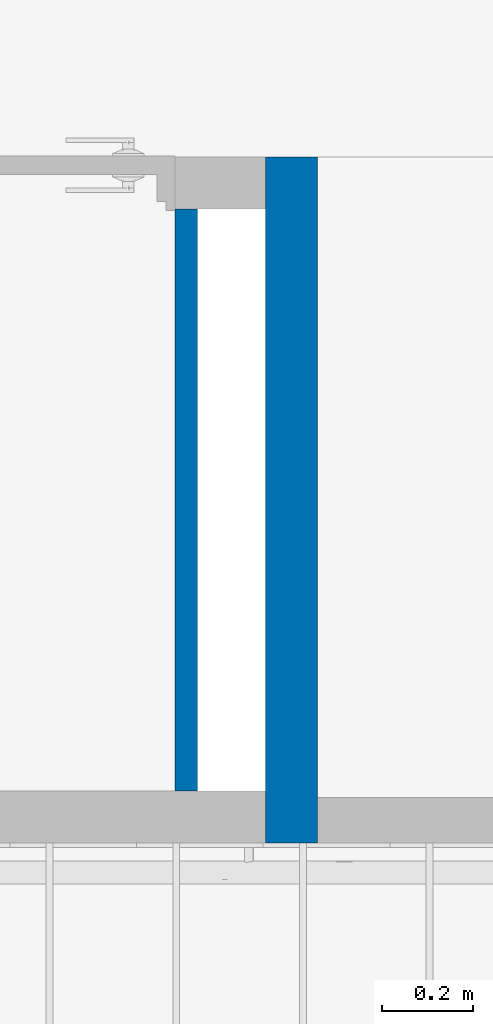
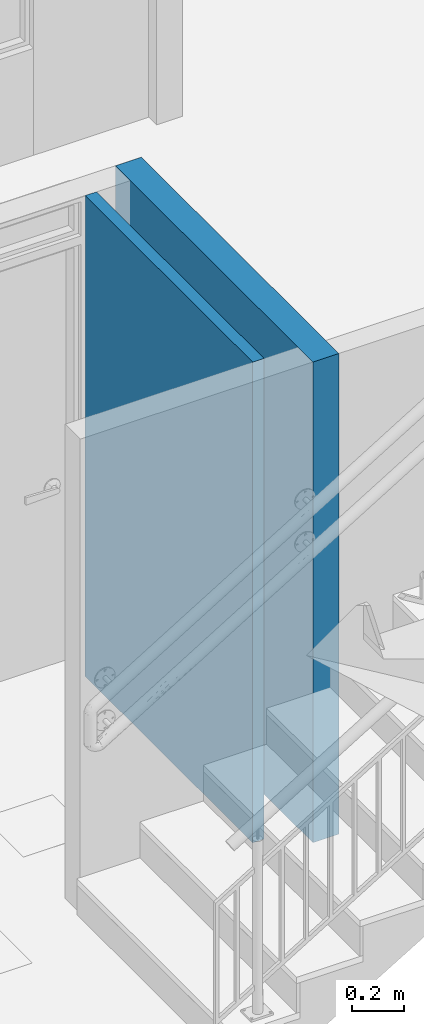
# One storey, part 21 of 48: 2 walls.
"""IFC4 building model written with IfcOpenShell, lengths in metres."""

import ifcopenshell
import ifcopenshell.guid

model = None  # the IFC model being written
_history = None  # IfcOwnerHistory: only IFC2X3 demands one
_inside = {}  # id of a spatial element -> (the spatial element, [elements in it])
_under = {}  # id of a project, library or spatial element -> (it, [spatial elements below it])
_declared = {}  # id of a project -> (the project, [libraries it declares])
_typed = {}  # id of a type object -> (the type object, [elements of that type])
_made_of = {}  # id of a material, layer set ... -> (it, [elements and type objects made of it])


def new_model(schema):
    """Start an empty IFC model of exactly this schema.

    Asked for "IFC4X3", IfcOpenShell would pick the latest addendum, in which some entities
    have other attributes; the version numbers below select the first issue.
    IFC2X3 requires an IfcOwnerHistory on every rooted entity: one is made here for all.
    """
    global model, _history
    if schema == "IFC4X3":
        model = ifcopenshell.file(schema_version=(4, 3, 0, 0))
    else:
        model = ifcopenshell.file(schema=schema)
    _inside.clear()
    _under.clear()
    _declared.clear()
    _typed.clear()
    _made_of.clear()
    _history = None
    if model.schema == "IFC2X3":
        org = make("IfcOrganization", Name="unknown")
        user = make(
            "IfcPersonAndOrganization",
            ThePerson=make("IfcPerson", FamilyName="unknown"),
            TheOrganization=org,
        )
        app = make(
            "IfcApplication",
            ApplicationDeveloper=org,
            Version="unknown",
            ApplicationFullName="unknown",
            ApplicationIdentifier="unknown",
        )
        _history = make(
            "IfcOwnerHistory",
            OwningUser=user,
            OwningApplication=app,
            ChangeAction="ADDED",
            CreationDate=0,
        )
    return model


def make(cls, **values):
    """One entity of the class cls with the attributes given. An attribute that is None is left unset."""
    return model.create_entity(
        cls, **{name: value for name, value in values.items() if value is not None}
    )


def entity(cls, *values):
    """Any entity or typed value of the class cls, its attributes in the order of the schema. None: left unset."""
    e = model.create_entity(cls)
    for i, value in enumerate(values):
        if value is not None:
            e[i] = value
    return e


def rooted(cls, **values):
    """An entity with a GlobalId (a new one), such as an element, a storey or a relation."""
    return make(cls, GlobalId=ifcopenshell.guid.new(), OwnerHistory=_history, **values)


def si_unit(unit_type, name, prefix=None):
    """IfcSIUnit, for example si_unit("LENGTHUNIT", "METRE", prefix="MILLI")."""
    return make("IfcSIUnit", UnitType=unit_type, Prefix=prefix, Name=name)


def converted_unit(unit_type, name, factor, base, dimensions=None, offset=None):
    """IfcConversionBasedUnit, such as the inch: factor (a typed value) times the base unit."""
    return make(
        "IfcConversionBasedUnit"
        if offset is None
        else "IfcConversionBasedUnitWithOffset",
        ConversionOffset=offset,
        Dimensions=None
        if dimensions is None
        else entity("IfcDimensionalExponents", *dimensions),
        UnitType=unit_type,
        Name=name,
        ConversionFactor=make(
            "IfcMeasureWithUnit", ValueComponent=factor, UnitComponent=base
        ),
    )


def derived_unit(unit_type, elements):
    """IfcDerivedUnit: a product of units, each with its exponent."""
    return make(
        "IfcDerivedUnit",
        Elements=[
            make("IfcDerivedUnitElement", Unit=unit, Exponent=power)
            for unit, power in elements
        ],
        UnitType=unit_type,
    )


def assignment(units):
    """IfcUnitAssignment: the units of a project."""
    return None if units is None else make("IfcUnitAssignment", Units=units)


def point(xyz):
    """IfcCartesianPoint."""
    return None if xyz is None else make("IfcCartesianPoint", Coordinates=xyz)


def direction(xyz):
    """IfcDirection."""
    return None if xyz is None else make("IfcDirection", DirectionRatios=xyz)


def frame(location, z_axis=None, x_axis=None):
    """IfcAxis2Placement3D, a coordinate frame: its origin and axes. An axis left out is left unset."""
    return make(
        "IfcAxis2Placement3D",
        Location=point(location),
        Axis=direction(z_axis),
        RefDirection=direction(x_axis),
    )


def origin():
    """The frame at (0, 0, 0) with its axes left unset."""
    return frame((0.0, 0.0, 0.0))


def place(relative_to, where):
    """IfcLocalPlacement: puts the frame where relative to a parent placement (None: the world)."""
    return make(
        "IfcLocalPlacement", PlacementRelTo=relative_to, RelativePlacement=where
    )


def context(
    kind, dimensions, precision=None, world=None, true_north=None, identifier=None
):
    """IfcGeometricRepresentationContext, for example the 3D "Model" context."""
    return make(
        "IfcGeometricRepresentationContext",
        ContextIdentifier=identifier,
        ContextType=kind,
        CoordinateSpaceDimension=dimensions,
        Precision=precision,
        WorldCoordinateSystem=world,
        TrueNorth=true_north,
    )


def subcontext(parent, identifier, kind, view, scale=None):
    """IfcGeometricRepresentationSubContext, for example "Body" below "Model"."""
    return make(
        "IfcGeometricRepresentationSubContext",
        ContextIdentifier=identifier,
        ContextType=kind,
        ParentContext=parent,
        TargetScale=scale,
        TargetView=view,
    )


def project(units=None, contexts=None):
    """IfcProject with its units and contexts."""
    return rooted(
        "IfcProject",
        Name="project",
        RepresentationContexts=contexts,
        UnitsInContext=assignment(units),
    )


def spatial(cls, under=None, at=None, **own):
    """A site, building, storey or space (cls), placed at a placement, below another one or the project."""
    s = rooted(cls, ObjectPlacement=at, **own)
    if under is not None:
        _under.setdefault(under.id(), (under, []))[1].append(s)
    return s


def point_list(points):
    """IfcCartesianPointList2D or 3D."""
    cls = (
        "IfcCartesianPointList2D" if len(points[0]) == 2 else "IfcCartesianPointList3D"
    )
    return make(cls, CoordList=points)


def indexed_curve(points, segments=None, self_intersect=None):
    """IfcIndexedPolyCurve: lines and arcs through numbered points (the first is 1)."""
    return make(
        "IfcIndexedPolyCurve",
        Points=point_list(points),
        Segments=segments,
        SelfIntersect=self_intersect,
    )


def outline(outer, holes=None, kind="AREA"):
    """IfcArbitraryClosedProfileDef: a profile drawn as a closed curve; with holes, ...WithVoids."""
    if holes is None:
        return make("IfcArbitraryClosedProfileDef", ProfileType=kind, OuterCurve=outer)
    return make(
        "IfcArbitraryProfileDefWithVoids",
        ProfileType=kind,
        OuterCurve=outer,
        InnerCurves=holes,
    )


def extrude(swept, where, along, depth):
    """IfcExtrudedAreaSolid: the profile swept, set in the frame where, extruded along a direction by depth."""
    return make(
        "IfcExtrudedAreaSolid",
        SweptArea=swept,
        Position=where,
        ExtrudedDirection=direction(along),
        Depth=depth,
    )


def shape(context_of_items, identifier, shape_type, items):
    """IfcShapeRepresentation: the items that make up one representation, for example the "Body"."""
    return make(
        "IfcShapeRepresentation",
        ContextOfItems=context_of_items,
        RepresentationIdentifier=identifier,
        RepresentationType=shape_type,
        Items=items,
    )


def material(Name=None, Category=None):
    """IfcMaterial."""
    return make("IfcMaterial", Name=Name, Category=Category)


def made_of(thing, what):
    """Note that an element or type object is made of a material, layer set ...; save() writes the relation."""
    if what is not None:
        _made_of.setdefault(what.id(), (what, []))[1].append(thing)
    return thing


def type_object(cls, material=None, **own):
    """A type object (cls), such as IfcWallType, which elements share."""
    return made_of(rooted(cls, **own), material)


def element(
    cls,
    number,
    at=None,
    inside=None,
    cuts=None,
    type_object=None,
    material=None,
    context=None,
    identifier="Body",
    shape_type=None,
    held_by="IfcProductDefinitionShape",
    body=None,
    shapes=None,
    **own,
):
    """One element of the class cls, such as IfcWall. Its Tag is "e" and its number.

    at: its placement. inside: the storey or other place that contains it. cuts: it is an
    opening in that element (IfcRelVoidsElement). A single representation is given by context,
    identifier, shape_type and body (its items); several are given by shapes. held_by: the class
    of the entity that holds the representations. save() writes the other relations.
    """
    e = rooted(cls, Tag="e%d" % number, ObjectPlacement=at, **own)
    if body is not None:
        shapes = [shape(context, identifier, shape_type, body)]
    if shapes is not None:
        e.Representation = make(held_by, Representations=shapes)
    if inside is not None:
        _inside.setdefault(inside.id(), (inside, []))[1].append(e)
    if cuts is not None:
        rooted(
            "IfcRelVoidsElement", RelatingBuildingElement=cuts, RelatedOpeningElement=e
        )
    if type_object is not None:
        _typed.setdefault(type_object.id(), (type_object, []))[1].append(e)
    return made_of(e, material)


def aggregate(whole, parts):
    """IfcRelAggregates: a whole, such as a stair, and the parts it consists of."""
    return rooted("IfcRelAggregates", RelatingObject=whole, RelatedObjects=parts)


def save(model, path):
    """Write the relations noted so far, then the file.

    IfcRelAggregates (storeys below a building ...), IfcRelContainedInSpatialStructure (elements
    in a storey), IfcRelDefinesByType, IfcRelAssociatesMaterial and IfcRelDeclares: one each for
    every whole, place, type object, material and project.
    """
    for whole, parts in _under.values():
        aggregate(whole, parts)
    for where, things in _inside.values():
        rooted(
            "IfcRelContainedInSpatialStructure",
            RelatedElements=things,
            RelatingStructure=where,
        )
    for kind, things in _typed.values():
        rooted("IfcRelDefinesByType", RelatedObjects=things, RelatingType=kind)
    for what, things in _made_of.values():
        rooted("IfcRelAssociatesMaterial", RelatedObjects=things, RelatingMaterial=what)
    for by, libraries in _declared.values():
        rooted("IfcRelDeclares", RelatingContext=by, RelatedDefinitions=libraries)
    model.write(path)


model = new_model("IFC4")

# Units and contexts
model_context = context("Model", 3, precision=1e-05, world=origin(), true_north=direction((6.123031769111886e-17, 1.0)))
body_context = subcontext(model_context, "Body", "Model", "MODEL_VIEW")
ifc_project = project(units=[si_unit("LENGTHUNIT", "METRE"), si_unit("AREAUNIT", "SQUARE_METRE"), si_unit("VOLUMEUNIT", "CUBIC_METRE"), converted_unit("PLANEANGLEUNIT", "DEGREE", entity("IfcRatioMeasure", 0.017453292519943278), si_unit("PLANEANGLEUNIT", "RADIAN"), dimensions=[0, 0, 0, 0, 0, 0, 0]), si_unit("MASSUNIT", "GRAM", prefix="KILO"), derived_unit("MASSDENSITYUNIT", [(si_unit("MASSUNIT", "GRAM", prefix="KILO"), 1), (si_unit("LENGTHUNIT", "METRE"), -3)]), derived_unit("IONCONCENTRATIONUNIT", [(si_unit("MASSUNIT", "GRAM", prefix="KILO"), 1), (si_unit("LENGTHUNIT", "METRE"), -3)]), derived_unit("MOMENTOFINERTIAUNIT", [(si_unit("LENGTHUNIT", "METRE"), 4)]), si_unit("TIMEUNIT", "SECOND"), si_unit("FREQUENCYUNIT", "HERTZ"), si_unit("THERMODYNAMICTEMPERATUREUNIT", "DEGREE_CELSIUS"), derived_unit("THERMALTRANSMITTANCEUNIT", [(si_unit("MASSUNIT", "GRAM", prefix="KILO"), 1), (si_unit("THERMODYNAMICTEMPERATUREUNIT", "KELVIN"), -1), (si_unit("TIMEUNIT", "SECOND"), -3)]), derived_unit("THERMALCONDUCTANCEUNIT", [(si_unit("MASSUNIT", "GRAM", prefix="KILO"), 1), (si_unit("THERMODYNAMICTEMPERATUREUNIT", "KELVIN"), -1), (si_unit("TIMEUNIT", "SECOND"), -3), (si_unit("LENGTHUNIT", "METRE"), 1)]), derived_unit("VOLUMETRICFLOWRATEUNIT", [(si_unit("LENGTHUNIT", "METRE"), 3), (si_unit("TIMEUNIT", "SECOND"), -1)]), derived_unit("MASSFLOWRATEUNIT", [(si_unit("MASSUNIT", "GRAM", prefix="KILO"), 1), (si_unit("TIMEUNIT", "SECOND"), -1)]), derived_unit("ROTATIONALFREQUENCYUNIT", [(si_unit("TIMEUNIT", "SECOND"), -1)]), si_unit("ELECTRICCURRENTUNIT", "AMPERE"), si_unit("ELECTRICVOLTAGEUNIT", "VOLT"), si_unit("POWERUNIT", "WATT"), si_unit("FORCEUNIT", "NEWTON", prefix="KILO"), si_unit("ILLUMINANCEUNIT", "LUX"), si_unit("LUMINOUSFLUXUNIT", "LUMEN"), si_unit("LUMINOUSINTENSITYUNIT", "CANDELA"), derived_unit("USERDEFINED", [(si_unit("MASSUNIT", "GRAM", prefix="KILO"), -1), (si_unit("LENGTHUNIT", "METRE"), -2), (si_unit("TIMEUNIT", "SECOND"), 3), (si_unit("LUMINOUSFLUXUNIT", "LUMEN"), 1)]), derived_unit("USERDEFINED", [(si_unit("MASSUNIT", "GRAM", prefix="KILO"), 1), (si_unit("TIMEUNIT", "SECOND"), -3), (si_unit("LENGTHUNIT", "METRE"), 3), (si_unit("ELECTRICCURRENTUNIT", "AMPERE"), -2)]), derived_unit("SOUNDPOWERUNIT", [(si_unit("MASSUNIT", "GRAM", prefix="KILO"), 1), (si_unit("TIMEUNIT", "SECOND"), -3), (si_unit("LENGTHUNIT", "METRE"), 2)]), derived_unit("SOUNDPRESSUREUNIT", [(si_unit("MASSUNIT", "GRAM", prefix="KILO"), 1), (si_unit("LENGTHUNIT", "METRE"), -1), (si_unit("TIMEUNIT", "SECOND"), -2)]), derived_unit("LINEARVELOCITYUNIT", [(si_unit("LENGTHUNIT", "METRE"), 1), (si_unit("TIMEUNIT", "SECOND"), -1)]), si_unit("PRESSUREUNIT", "PASCAL"), derived_unit("USERDEFINED", [(si_unit("MASSUNIT", "GRAM", prefix="KILO"), 1), (si_unit("LENGTHUNIT", "METRE"), -2), (si_unit("TIMEUNIT", "SECOND"), -2)]), derived_unit("LINEARFORCEUNIT", [(si_unit("MASSUNIT", "GRAM", prefix="KILO"), 1), (si_unit("TIMEUNIT", "SECOND"), -2)]), derived_unit("PLANARFORCEUNIT", [(si_unit("MASSUNIT", "GRAM", prefix="KILO"), 1), (si_unit("LENGTHUNIT", "METRE"), -1), (si_unit("TIMEUNIT", "SECOND"), -2)]), derived_unit("SPECIFICHEATCAPACITYUNIT", [(si_unit("THERMODYNAMICTEMPERATUREUNIT", "KELVIN"), -1), (si_unit("LENGTHUNIT", "METRE"), 2), (si_unit("TIMEUNIT", "SECOND"), -2)]), derived_unit("HEATINGVALUEUNIT", [(si_unit("LENGTHUNIT", "METRE"), 2), (si_unit("TIMEUNIT", "SECOND"), -2)]), derived_unit("VAPORPERMEABILITYUNIT", [(si_unit("LENGTHUNIT", "METRE"), -1), (si_unit("TIMEUNIT", "SECOND"), 1)]), derived_unit("DYNAMICVISCOSITYUNIT", [(si_unit("MASSUNIT", "GRAM", prefix="KILO"), 1), (si_unit("TIMEUNIT", "SECOND"), -1), (si_unit("LENGTHUNIT", "METRE"), -1)]), derived_unit("THERMALEXPANSIONCOEFFICIENTUNIT", [(si_unit("THERMODYNAMICTEMPERATUREUNIT", "KELVIN"), -1)]), derived_unit("MODULUSOFELASTICITYUNIT", [(si_unit("MASSUNIT", "GRAM", prefix="KILO"), 1), (si_unit("LENGTHUNIT", "METRE"), -1), (si_unit("TIMEUNIT", "SECOND"), -2)]), derived_unit("ISOTHERMALMOISTURECAPACITYUNIT", [(si_unit("LENGTHUNIT", "METRE"), 3), (si_unit("MASSUNIT", "GRAM", prefix="KILO"), -1)]), derived_unit("MOISTUREDIFFUSIVITYUNIT", [(si_unit("TIMEUNIT", "SECOND"), -1), (si_unit("LENGTHUNIT", "METRE"), 2)])], contexts=[model_context])

# Site, building, storey
site_placement = place(None, origin())
site = spatial("IfcSite", under=ifc_project, at=site_placement, Name="Default", CompositionType="ELEMENT")
building_placement = place(site_placement, origin())
building = spatial("IfcBuilding", under=site, at=building_placement, CompositionType="ELEMENT")
storey_placement = place(building_placement, frame((0.0, 0.0, 7.050000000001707)))
storey = spatial("IfcBuildingStorey", under=building, at=storey_placement, Name="Nivel 4", CompositionType="ELEMENT", Elevation=7.050000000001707)

# Walls
ifc_material_1 = material(Name="Ladrillo claro (Aire)", Category="Materials")
wall_type_1 = type_object("IfcWallType", Name="Basic Wall:B2010 - 0.115m - Muro interior en mampostería - Ladrillo", PredefinedType="STANDARD")
wall_1_placement = place(storey_placement, frame((10.6399999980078, -5.225000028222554, 0.0), z_axis=(0.0, 0.0, 1.0), x_axis=(0.0, 1.0, 0.0)))
element("IfcWall", 1, at=wall_1_placement, inside=storey, type_object=wall_type_1, material=ifc_material_1, Name="Basic Wall:B2010 - 0.115m - Muro interior en mampostería - Ladrillo", ObjectType="Basic Wall:B2010 - 0.115m - Muro interior en mampostería - Ladrillo", PredefinedType="NOTDEFINED", context=body_context, shape_type="SweptSolid", body=[
    extrude(outline(indexed_curve([(1.5150000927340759, 0.057500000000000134), (-9.033989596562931e-17, 0.057499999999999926), (9.033989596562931e-17, -0.057499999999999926), (1.5150000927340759, -0.05749999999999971), (1.5150000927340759, 0.057500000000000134)], self_intersect=False)), origin(), (0.0, 0.0, 1.0), 2.2499999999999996),
])
ifc_material_2 = material(Name="0 muro divisorio", Category="Materials")
wall_type_2 = type_object("IfcWallType", Name="Basic Wall:B2010 - 0.05m - MI No estructural- Concreto", PredefinedType="STANDARD")
wall_2_placement = place(storey_placement, frame((10.407500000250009, -5.110000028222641, 0.0), z_axis=(0.0, 0.0, 1.0), x_axis=(0.0, 1.0, 0.0)))
element("IfcWall", 2, at=wall_2_placement, inside=storey, type_object=wall_type_2, material=ifc_material_2, Name="Basic Wall:B2010 - 0.05m - MI No estructural- Concreto", ObjectType="Basic Wall:B2010 - 0.05m - MI No estructural- Concreto", PredefinedType="NOTDEFINED", context=body_context, shape_type="SweptSolid", body=[
    extrude(outline(indexed_curve([(1.2849999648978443, 0.025000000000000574), (-3.7405361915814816e-17, 0.025000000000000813), (3.7405361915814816e-17, -0.025000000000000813), (1.2849999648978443, -0.025000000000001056), (1.2849999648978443, 0.025000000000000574)], self_intersect=False)), origin(), (0.0, 0.0, 1.0), 2.2499999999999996),
])

save(model, "model.ifc")
